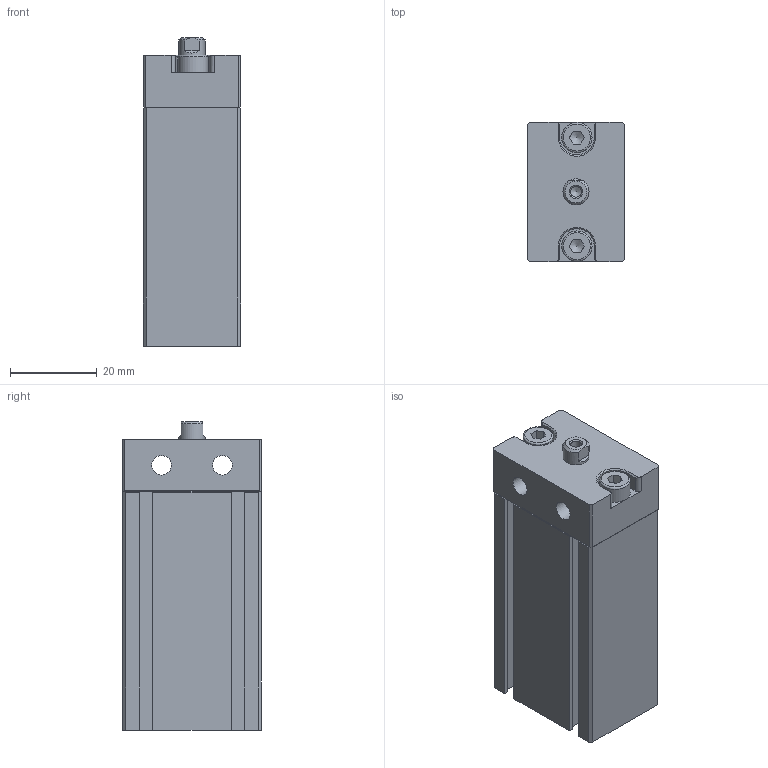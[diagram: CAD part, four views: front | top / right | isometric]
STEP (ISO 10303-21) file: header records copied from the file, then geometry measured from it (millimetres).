
FILE_DESCRIPTION((''),'2;1');
FILE_NAME('I:\3D電子目錄\氣缸\ND\ND\ND16\ND16x30.stp','2007-07-23T19:02:50',('Administrator'),(''),'Autodesk Inventor 11','Autodesk Inventor 11','');
FILE_SCHEMA(('AUTOMOTIVE_DESIGN { 1 0 10303 214 1 1 1 1 }'));
Length unit declared in the file: millimetre
Products named in the file (4): ND16; R 形環 18; ISO 4762 M4 x 10
Assembly tree (4 placements, depth 2):
  ND16
    ND16
    R 形環 18
    ISO 4762 M4 x 10  x2
Bounding box: 22.4 x 32.1 x 71 mm (x, y, z)
Volume: 41155.5 mm3; surface area: 14193.8 mm2
Topology: 5 solids, 5 shells, 170 faces, 408 edges, 261 vertices
Faces by surface type: plane 109, cylinder 26, cone 16, bspline 16, torus 3
Full cylindrical faces by diameter (mm): 1.5 x4, 4 x2, 4.5 x2, 6 x1, 7 x2, 10 x1, 18 x1, 19 x1
Entity records: 4537 total; most frequent: CARTESIAN_POINT 968, DIRECTION 708, ORIENTED_EDGE 668, EDGE_CURVE 334, AXIS2_PLACEMENT_3D 236, VECTOR 236, LINE 236, VERTEX_POINT 234
